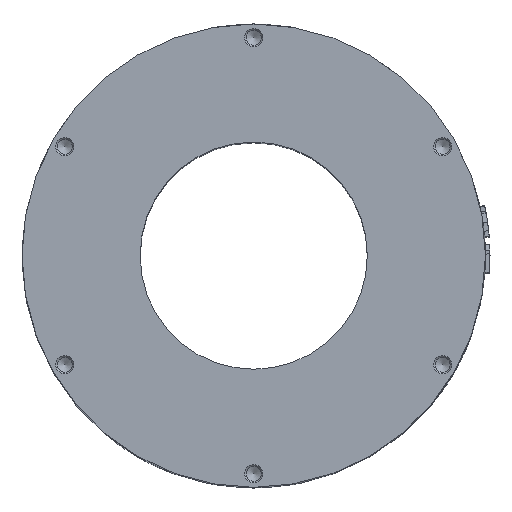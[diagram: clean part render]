
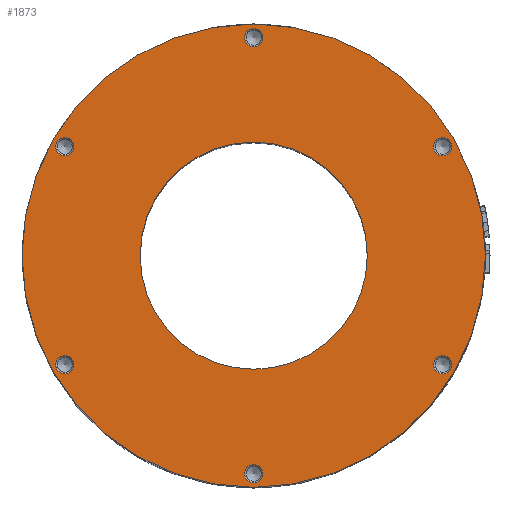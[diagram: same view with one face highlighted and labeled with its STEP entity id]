
A CAD part, top view. The second image highlights one B-rep face of the part: STEP entity #1873.
In plain terms, the highlighted planar face has unit normal (0, 0, 1).
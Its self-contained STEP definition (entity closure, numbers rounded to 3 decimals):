
#1873=ADVANCED_FACE('',(#2836,#2837,#2838,#2839,#2840,#2841,#2842,#2843),
#2169,.F.);
#2169=PLANE('',#7718);
#2836=FACE_BOUND('',#3379,.T.);
#2837=FACE_BOUND('',#3380,.T.);
#2838=FACE_BOUND('',#3381,.T.);
#2839=FACE_BOUND('',#3382,.T.);
#2840=FACE_BOUND('',#3383,.T.);
#2841=FACE_BOUND('',#3384,.T.);
#2842=FACE_BOUND('',#3385,.T.);
#2843=FACE_BOUND('',#3386,.T.);
#3379=EDGE_LOOP('',(#4986));
#3380=EDGE_LOOP('',(#4987));
#3381=EDGE_LOOP('',(#4988));
#3382=EDGE_LOOP('',(#4989));
#3383=EDGE_LOOP('',(#4990));
#3384=EDGE_LOOP('',(#4991));
#3385=EDGE_LOOP('',(#4992));
#3386=EDGE_LOOP('',(#4993));
#4986=ORIENTED_EDGE('',*,*,#7159,.T.);
#4987=ORIENTED_EDGE('',*,*,#7160,.T.);
#4988=ORIENTED_EDGE('',*,*,#7161,.T.);
#4989=ORIENTED_EDGE('',*,*,#7162,.T.);
#4990=ORIENTED_EDGE('',*,*,#7163,.T.);
#4991=ORIENTED_EDGE('',*,*,#7164,.T.);
#4992=ORIENTED_EDGE('',*,*,#7165,.F.);
#4993=ORIENTED_EDGE('',*,*,#7141,.F.);
#6182=VERTEX_POINT('',#15775);
#6200=VERTEX_POINT('',#15812);
#6201=VERTEX_POINT('',#15814);
#6202=VERTEX_POINT('',#15816);
#6203=VERTEX_POINT('',#15818);
#6204=VERTEX_POINT('',#15820);
#6205=VERTEX_POINT('',#15822);
#6206=VERTEX_POINT('',#15824);
#7141=EDGE_CURVE('',#6182,#6182,#7407,.T.);
#7159=EDGE_CURVE('',#6200,#6200,#7417,.T.);
#7160=EDGE_CURVE('',#6201,#6201,#7418,.T.);
#7161=EDGE_CURVE('',#6202,#6202,#7419,.T.);
#7162=EDGE_CURVE('',#6203,#6203,#7420,.T.);
#7163=EDGE_CURVE('',#6204,#6204,#7421,.T.);
#7164=EDGE_CURVE('',#6205,#6205,#7422,.T.);
#7165=EDGE_CURVE('',#6206,#6206,#7423,.T.);
#7407=CIRCLE('',#7700,51.);
#7417=CIRCLE('',#7711,2.);
#7418=CIRCLE('',#7712,2.);
#7419=CIRCLE('',#7713,2.);
#7420=CIRCLE('',#7714,2.);
#7421=CIRCLE('',#7715,2.);
#7422=CIRCLE('',#7716,2.);
#7423=CIRCLE('',#7717,25.);
#7700=AXIS2_PLACEMENT_3D('',#15774,#8810,#8811);
#7711=AXIS2_PLACEMENT_3D('',#15811,#8840,#8841);
#7712=AXIS2_PLACEMENT_3D('',#15813,#8842,#8843);
#7713=AXIS2_PLACEMENT_3D('',#15815,#8844,#8845);
#7714=AXIS2_PLACEMENT_3D('',#15817,#8846,#8847);
#7715=AXIS2_PLACEMENT_3D('',#15819,#8848,#8849);
#7716=AXIS2_PLACEMENT_3D('',#15821,#8850,#8851);
#7717=AXIS2_PLACEMENT_3D('',#15823,#8852,#8853);
#7718=AXIS2_PLACEMENT_3D('',#15825,#8854,#8855);
#8810=DIRECTION('',(0.,0.,-1.));
#8811=DIRECTION('',(-1.,0.,0.));
#8840=DIRECTION('',(0.,0.,-1.));
#8841=DIRECTION('',(-1.,0.,0.));
#8842=DIRECTION('',(0.,0.,-1.));
#8843=DIRECTION('',(-1.,0.,0.));
#8844=DIRECTION('',(0.,0.,-1.));
#8845=DIRECTION('',(-1.,0.,0.));
#8846=DIRECTION('',(0.,0.,-1.));
#8847=DIRECTION('',(-1.,0.,0.));
#8848=DIRECTION('',(0.,0.,-1.));
#8849=DIRECTION('',(-1.,0.,0.));
#8850=DIRECTION('',(0.,0.,-1.));
#8851=DIRECTION('',(-1.,0.,0.));
#8852=DIRECTION('',(0.,0.,1.));
#8853=DIRECTION('',(-1.,0.,0.));
#8854=DIRECTION('',(0.,0.,-1.));
#8855=DIRECTION('',(-1.,0.,0.));
#15774=CARTESIAN_POINT('',(0.,0.,104.));
#15775=CARTESIAN_POINT('',(-51.,0.,104.));
#15811=CARTESIAN_POINT('',(41.569,24.,104.));
#15812=CARTESIAN_POINT('',(39.569,24.,104.));
#15813=CARTESIAN_POINT('',(41.569,-24.,104.));
#15814=CARTESIAN_POINT('',(39.569,-24.,104.));
#15815=CARTESIAN_POINT('',(0.,-48.,104.));
#15816=CARTESIAN_POINT('',(-2.,-48.,104.));
#15817=CARTESIAN_POINT('',(-41.569,-24.,104.));
#15818=CARTESIAN_POINT('',(-43.569,-24.,104.));
#15819=CARTESIAN_POINT('',(-41.569,24.,104.));
#15820=CARTESIAN_POINT('',(-43.569,24.,104.));
#15821=CARTESIAN_POINT('',(0.,48.,104.));
#15822=CARTESIAN_POINT('',(-2.,48.,104.));
#15823=CARTESIAN_POINT('',(0.,0.,104.));
#15824=CARTESIAN_POINT('',(-25.,0.,104.));
#15825=CARTESIAN_POINT('',(0.,0.,104.));
